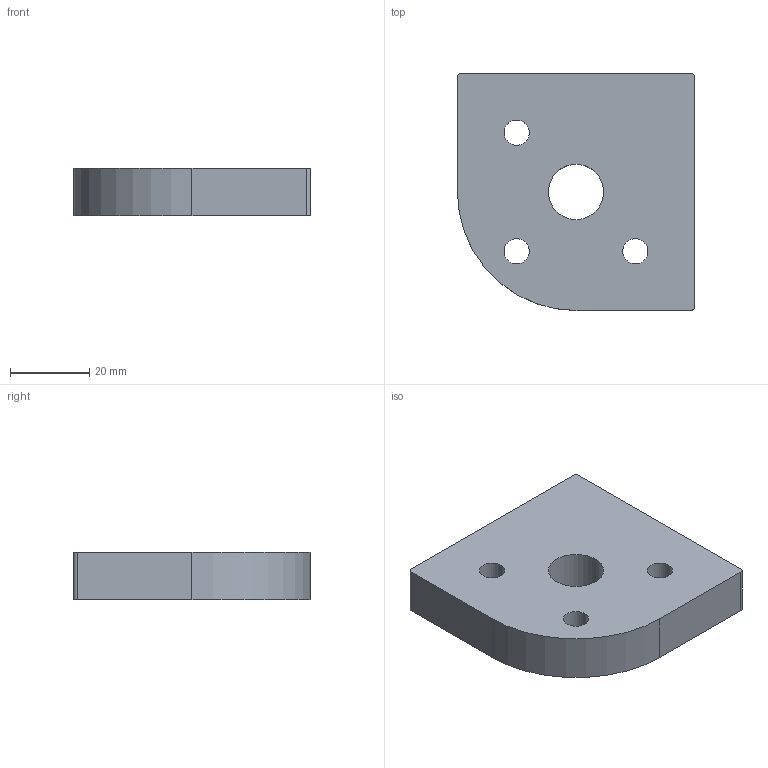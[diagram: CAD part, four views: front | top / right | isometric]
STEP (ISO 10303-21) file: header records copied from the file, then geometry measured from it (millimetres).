
FILE_DESCRIPTION (( 'STEP AP203' ), '1' );
FILE_NAME ('RPF6060.STEP', '2024-02-19T03:11:06', ( '' ), ( '' ), 'SwSTEP 2.0', 'SolidWorks 2022', '' );
FILE_SCHEMA (( 'CONFIG_CONTROL_DESIGN' ));
Length unit declared in the file: millimetre
Products named in the file (1): RPF6060
Bounding box: 60 x 60 x 12 mm (x, y, z)
Volume: 36662.2 mm3; surface area: 10550.6 mm2
Topology: 1 solids, 1 shells, 27 faces, 66 edges, 44 vertices
Faces by surface type: cylinder 18, plane 9
Entity records: 909 total; most frequent: DIRECTION 158, CARTESIAN_POINT 138, ORIENTED_EDGE 132, EDGE_CURVE 66, AXIS2_PLACEMENT_3D 64, VERTEX_POINT 44, EDGE_LOOP 38, CIRCLE 36
